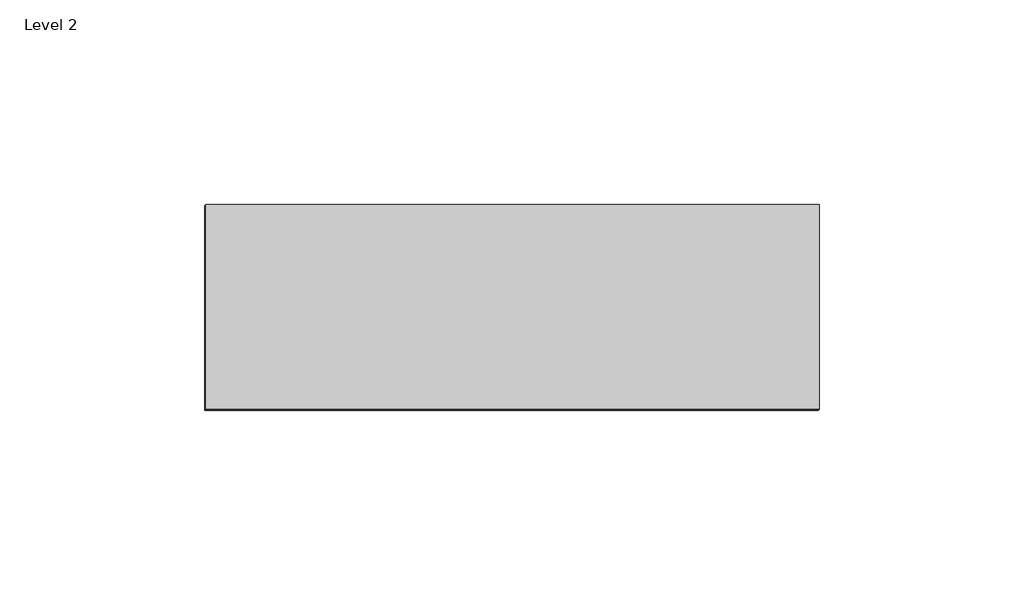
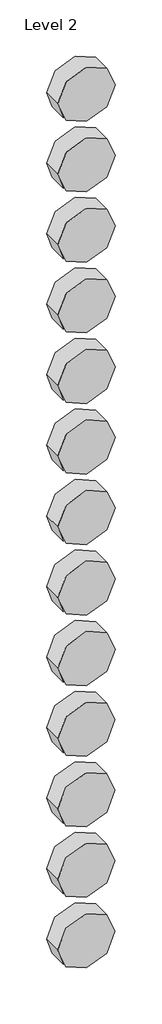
# One storey: 13 proxies.
"""IFC4 building model written with IfcOpenShell, lengths in millimetres."""

from ifc_helpers import new_model, si_unit, origin, place, context, project, spatial, transform, mapped, element, save
from components import materialmodel_materialmodel_17b3a4fc

model = new_model("IFC4")

# Units and contexts
model_context = context("Model", 3, world=origin())
ifc_project = project(units=[si_unit("LENGTHUNIT", "METRE", prefix="MILLI")], contexts=[model_context])

# Site, building, storey
site = spatial("IfcSite", under=ifc_project)
building = spatial("IfcBuilding", under=site)
storey = spatial("IfcBuildingStorey", under=building, Name="Level 2", Elevation=4000.0)

# Proxies
placement = place(None, origin())
materialmodel_materialmodel_shape = materialmodel_materialmodel_17b3a4fc(model_context)
element("IfcBuildingElementProxy", 1, Name="MaterialModel : MaterialModel", ObjectType="MaterialModel : MaterialModel", at=placement, inside=storey, context=model_context, shape_type="MappedRepresentation", body=[
    mapped(materialmodel_materialmodel_shape, transform((-6040.1325632, 2209.4764129, 2072.8549526), x_axis=(1.0, 0.0, 0.0), y_axis=(0.0, 1.0, 0.0), z_axis=(0.0, 0.0, 1.0))),
])
element("IfcBuildingElementProxy", 2, Name="MaterialModel : MaterialModel", ObjectType="MaterialModel : MaterialModel", at=placement, inside=storey, context=model_context, shape_type="MappedRepresentation", body=[
    mapped(materialmodel_materialmodel_shape, transform((-6040.1622712, 2209.4764129, 1877.8845455), x_axis=(1.0, 0.0, 0.0), y_axis=(0.0, 1.0, 0.0), z_axis=(0.0, 0.0, 1.0))),
])
element("IfcBuildingElementProxy", 3, Name="MaterialModel : MaterialModel", ObjectType="MaterialModel : MaterialModel", at=placement, inside=storey, context=model_context, shape_type="MappedRepresentation", body=[
    mapped(materialmodel_materialmodel_shape, transform((-6040.1919792, 2209.4764129, 1682.9141385), x_axis=(1.0, 0.0, 0.0), y_axis=(0.0, 1.0, 0.0), z_axis=(0.0, 0.0, 1.0))),
])
element("IfcBuildingElementProxy", 4, Name="MaterialModel : MaterialModel", ObjectType="MaterialModel : MaterialModel", at=placement, inside=storey, context=model_context, shape_type="MappedRepresentation", body=[
    mapped(materialmodel_materialmodel_shape, transform((-6040.2216872, 2209.4764129, 1487.9437314), x_axis=(1.0, 0.0, 0.0), y_axis=(0.0, 1.0, 0.0), z_axis=(0.0, 0.0, 1.0))),
])
element("IfcBuildingElementProxy", 5, Name="MaterialModel : MaterialModel", ObjectType="MaterialModel : MaterialModel", at=placement, inside=storey, context=model_context, shape_type="MappedRepresentation", body=[
    mapped(materialmodel_materialmodel_shape, transform((-6040.2513951, 2209.4764129, 1292.9733243), x_axis=(1.0, 0.0, 0.0), y_axis=(0.0, 1.0, 0.0), z_axis=(0.0, 0.0, 1.0))),
])
element("IfcBuildingElementProxy", 6, Name="MaterialModel : MaterialModel", ObjectType="MaterialModel : MaterialModel", at=placement, inside=storey, context=model_context, shape_type="MappedRepresentation", body=[
    mapped(materialmodel_materialmodel_shape, transform((-6040.2811031, 2209.4764129, 1098.0029172), x_axis=(1.0, 0.0, 0.0), y_axis=(0.0, 1.0, 0.0), z_axis=(0.0, 0.0, 1.0))),
])
element("IfcBuildingElementProxy", 7, Name="MaterialModel : MaterialModel", ObjectType="MaterialModel : MaterialModel", at=placement, inside=storey, context=model_context, shape_type="MappedRepresentation", body=[
    mapped(materialmodel_materialmodel_shape, transform((-6040.3108111, 2209.4764129, 903.0325101), x_axis=(1.0, 0.0, 0.0), y_axis=(0.0, 1.0, 0.0), z_axis=(0.0, 0.0, 1.0))),
])
element("IfcBuildingElementProxy", 8, Name="MaterialModel : MaterialModel", ObjectType="MaterialModel : MaterialModel", at=placement, inside=storey, context=model_context, shape_type="MappedRepresentation", body=[
    mapped(materialmodel_materialmodel_shape, transform((-6040.3405191, 2209.4764129, 708.0621031), x_axis=(1.0, 0.0, 0.0), y_axis=(0.0, 1.0, 0.0), z_axis=(0.0, 0.0, 1.0))),
])
element("IfcBuildingElementProxy", 9, Name="MaterialModel : MaterialModel", ObjectType="MaterialModel : MaterialModel", at=placement, inside=storey, context=model_context, shape_type="MappedRepresentation", body=[
    mapped(materialmodel_materialmodel_shape, transform((-6040.3702271, 2209.4764129, 513.091696), x_axis=(1.0, 0.0, 0.0), y_axis=(0.0, 1.0, 0.0), z_axis=(0.0, 0.0, 1.0))),
])
element("IfcBuildingElementProxy", 10, Name="MaterialModel : MaterialModel", ObjectType="MaterialModel : MaterialModel", at=placement, inside=storey, context=model_context, shape_type="MappedRepresentation", body=[
    mapped(materialmodel_materialmodel_shape, transform((-6040.3999351, 2209.4764129, 318.1212889), x_axis=(1.0, 0.0, 0.0), y_axis=(0.0, 1.0, 0.0), z_axis=(0.0, 0.0, 1.0))),
])
element("IfcBuildingElementProxy", 11, Name="MaterialModel : MaterialModel", ObjectType="MaterialModel : MaterialModel", at=placement, inside=storey, context=model_context, shape_type="MappedRepresentation", body=[
    mapped(materialmodel_materialmodel_shape, transform((-6040.4591553, 2209.4764129, 123.1507076), x_axis=(1.0, 0.0, 0.0), y_axis=(0.0, 1.0, 0.0), z_axis=(0.0, 0.0, 1.0))),
])
element("IfcBuildingElementProxy", 12, Name="MaterialModel : MaterialModel", ObjectType="MaterialModel : MaterialModel", at=placement, inside=storey, context=model_context, shape_type="MappedRepresentation", body=[
    mapped(materialmodel_materialmodel_shape, transform((-6040.4593511, 2209.4764129, -71.8195253), x_axis=(1.0, 0.0, 0.0), y_axis=(0.0, 1.0, 0.0), z_axis=(0.0, 0.0, 1.0))),
])
element("IfcBuildingElementProxy", 13, Name="MaterialModel : MaterialModel", ObjectType="MaterialModel : MaterialModel", at=placement, inside=storey, context=model_context, shape_type="MappedRepresentation", body=[
    mapped(materialmodel_materialmodel_shape, transform((-6040.4571978, 2209.4764129, -266.7897443), x_axis=(1.0, 0.0, 0.0), y_axis=(0.0, 1.0, 0.0), z_axis=(0.0, 0.0, 1.0))),
])

save(model, "model.ifc")
